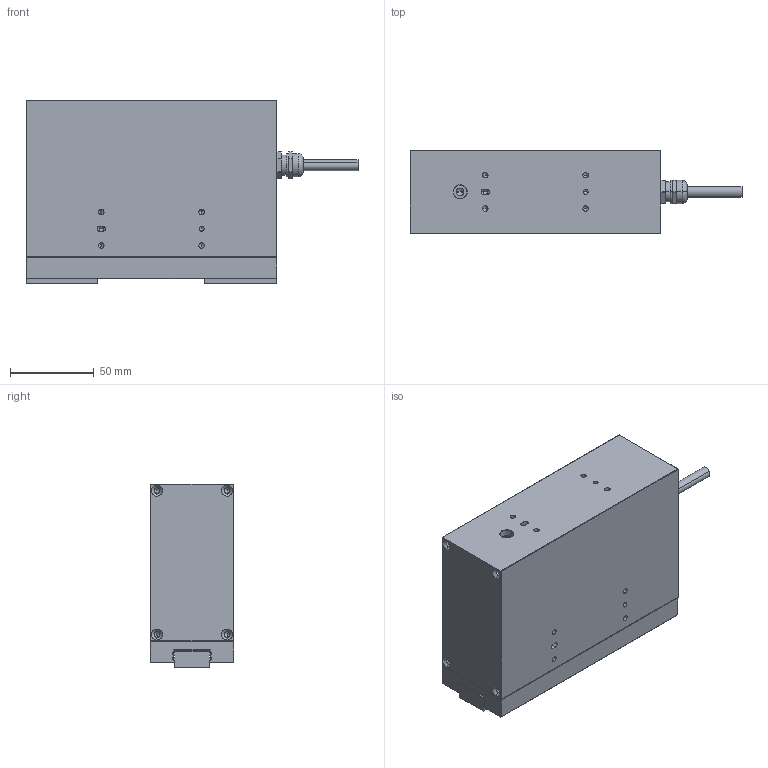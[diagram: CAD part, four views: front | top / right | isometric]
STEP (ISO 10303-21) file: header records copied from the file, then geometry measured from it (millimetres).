
FILE_DESCRIPTION (( 'STEP AP203' ), '1' );
FILE_NAME ('CTPM2F60S_す雄謗硌忒.STEP', '2024-03-07T06:53:57', ( '' ), ( '' ), 'SwSTEP 2.0', 'SolidWorks 2016', '' );
FILE_SCHEMA (( 'CONFIG_CONTROL_DESIGN' ));
Length unit declared in the file: millimetre
Products named in the file (8): GBT70.1 M4X12_内六角圆柱头螺钉 M4X12; CTPM2F60S_褲极; CTPM2F60S_导轨B（干磨版）; CTPM2F60S_盄擢; CTPM2F60S_滑块B（干磨版）; CTPM2F60S_痄雄郪璃; CTPM2F60S_跡擘芛; CTPM2F60S_す雄謗硌忒
Assembly tree (13 placements, depth 3):
  CTPM2F60S_す雄謗硌忒
    CTPM2F60S_褲极
    CTPM2F60S_痄雄郪璃
      GBT70.1 M4X12_内六角圆柱头螺钉 M4X12  x6
      CTPM2F60S_滑块B（干磨版）  x2
      CTPM2F60S_导轨B（干磨版）
    CTPM2F60S_跡擘芛
    CTPM2F60S_盄擢
Bounding box: 198.5 x 50 x 110 mm (x, y, z)
Volume: 788880.4 mm3; surface area: 90949 mm2
Topology: 12 solids, 12 shells, 780 faces, 1840 edges, 1033 vertices
Faces by surface type: plane 302, cylinder 243, cone 209, bspline 24, torus 2
Entity records: 16796 total; most frequent: DIRECTION 2906, CARTESIAN_POINT 2797, ORIENTED_EDGE 2508, EDGE_CURVE 1254, AXIS2_PLACEMENT_3D 1084, VERTEX_POINT 755, VECTOR 738, LINE 738
